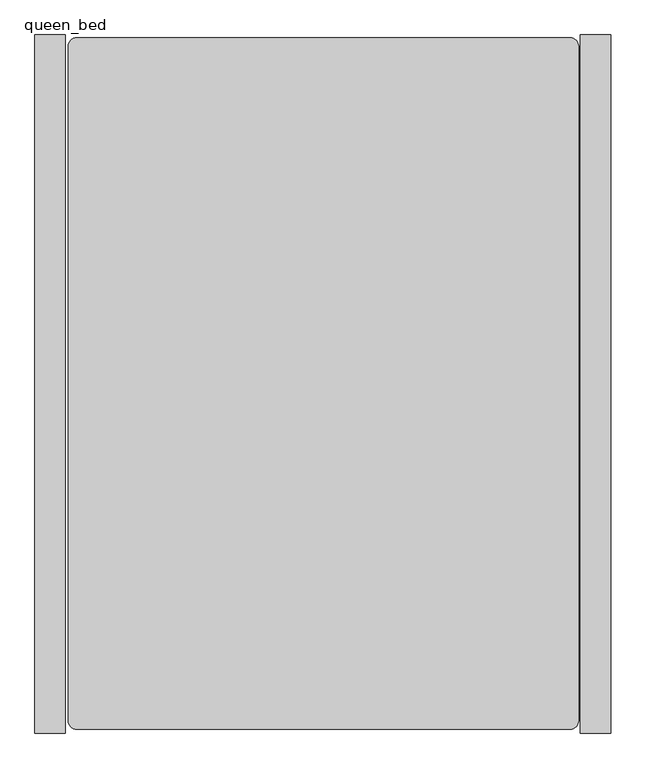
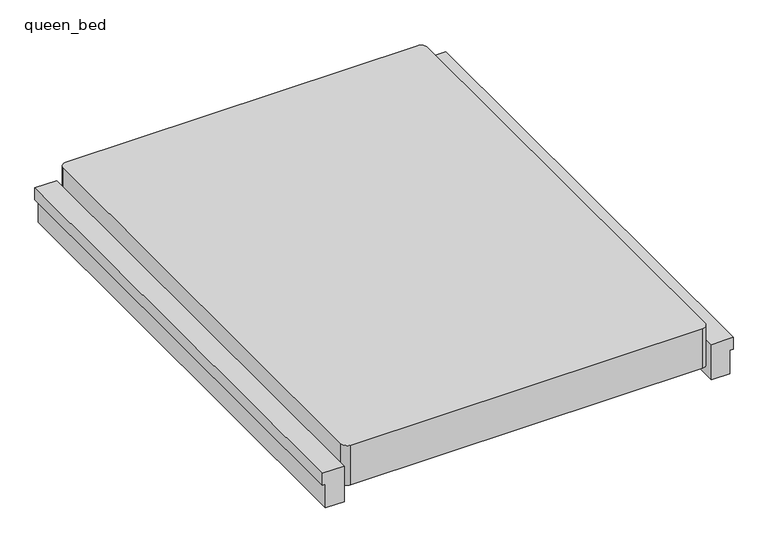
"""IFC4 building model written with IfcOpenShell, lengths in millimetres: furniture geometry, Ikea_Malm_queen_bed_with_end_tables_2574 : queen_bed."""

from ifc_helpers import new_model, si_unit, point, frame, frame_2d, origin, place, context, project, spatial, polyline, circle_curve, trimmed, segment, composite_curve, outline, extrude, source, transform, mapped, element, save


def queen_bed_97955085(model_context):
    return source(origin(), model_context, "Body", "SweptSolid", [
        extrude(outline(composite_curve([segment(polyline([(718.9189293, -412.0382825), (-716.1810707, -412.0382825)]), True, "CONTINUOUS"), segment(trimmed(circle_curve(frame_2d((-716.1810707, -386.6382825)), 25.4), [point((-716.1810707, -412.0382825))], [point((-741.5810707, -386.6382825))], False, "CARTESIAN"), True, "CONTINUOUS"), segment(polyline([(-741.5810707, -386.6382825), (-741.5810707, 1575.5117175)]), True, "CONTINUOUS"), segment(trimmed(circle_curve(frame_2d((-716.1810707, 1575.5117175)), 25.4), [point((-741.5810707, 1575.5117175))], [point((-716.1810707, 1600.9117175))], False, "CARTESIAN"), True, "CONTINUOUS"), segment(polyline([(-716.1810707, 1600.9117175), (718.9189293, 1600.9117175)]), True, "CONTINUOUS"), segment(trimmed(circle_curve(frame_2d((718.9189293, 1575.5117175)), 25.4), [point((718.9189293, 1600.9117175))], [point((744.3189293, 1575.5117175))], False, "CARTESIAN"), True, "CONTINUOUS"), segment(polyline([(744.3189293, 1575.5117175), (744.3189293, -386.6382825)]), True, "CONTINUOUS"), segment(trimmed(circle_curve(frame_2d((718.9189293, -386.6382825)), 25.4), [point((744.3189293, -386.6382825))], [point((718.9189293, -412.0382825))], False, "CARTESIAN"), True, "CONTINUOUS")], self_intersect=False)), frame((0.0, 0.0, 206.5299385), z_axis=(0.0, 0.0, 1.0), x_axis=(1.0, 0.0, 0.0)), (0.0, 0.0, 1.0), 171.4813148),
        extrude(outline(polyline([(304.8, -749.3), (304.8, -838.2), (254.0, -838.2), (254.0, -825.5), (152.4, -825.5), (152.4, -749.3), (304.8, -749.3)])), frame((0.0, -423.0456454, 0.0), z_axis=(0.0, 1.0, 0.0), x_axis=(0.0, 0.0, 1.0)), (0.0, 0.0, 1.0), 2032.0),
        extrude(outline(polyline([(304.8, 749.3), (152.4, 749.3), (152.4, 825.5), (254.0, 825.5), (254.0, 838.2), (304.8, 838.2), (304.8, 749.3)])), frame((0.0, -423.0456454, 0.0), z_axis=(0.0, 1.0, 0.0), x_axis=(0.0, 0.0, 1.0)), (0.0, 0.0, 1.0), 2032.0),
    ])


if __name__ == "__main__":
    model = new_model("IFC4")
    model_context = context("Model", 3, world=origin())
    ifc_project = project(units=[si_unit("LENGTHUNIT", "METRE", prefix="MILLI")], contexts=[model_context])
    site = spatial("IfcSite", under=ifc_project)
    building = spatial("IfcBuilding", under=site)
    placement = place(None, origin())
    queen_bed_shape = queen_bed_97955085(model_context)
    element("IfcFurniture", 1, ObjectType="Ikea_Malm_queen_bed_with_end_tables_2574 : queen_bed", at=placement, inside=building, context=model_context, shape_type="MappedRepresentation", body=[
        mapped(queen_bed_shape, transform((0.0, 0.0, 0.0), x_axis=(1.0, 0.0, 0.0), y_axis=(0.0, 1.0, 0.0), z_axis=(0.0, 0.0, 1.0))),
    ])
    save(model, "model.ifc")
